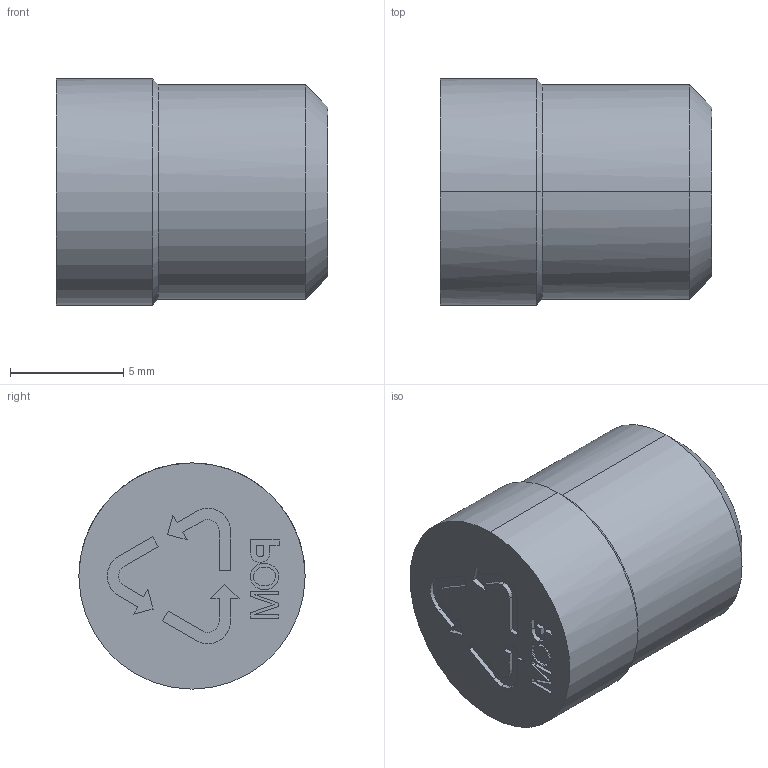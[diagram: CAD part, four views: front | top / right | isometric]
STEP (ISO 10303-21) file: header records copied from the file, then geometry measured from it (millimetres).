
FILE_DESCRIPTION(('CATIA V5 STEP Exchange'),'2;1');
FILE_NAME('C:\Users\Utente\Desktop\IO LAVORO\3D X SITO CF\X SITO\PLASTICA\CFMR\MPOM10.stp','2021-03-26T13:44:57+00:00',('none'),('none'),'CATIA Version 5 Release 20 GA (IN-10)','CATIA V5 STEP AP203','none');
FILE_SCHEMA(('CONFIG_CONTROL_DESIGN'));
Length unit declared in the file: millimetre
Products named in the file (1): MPOM10
Bounding box: 12 x 10 x 10 mm (x, y, z)
Volume: 811.3 mm3; surface area: 575.7 mm2
Topology: 1 solids, 1 shells, 140 faces, 396 edges, 265 vertices
Faces by surface type: plane 112, cylinder 20, cone 8
Entity records: 4546 total; most frequent: CARTESIAN_POINT 894, ORIENTED_EDGE 788, DIRECTION 662, EDGE_CURVE 394, VECTOR 334, LINE 334, VERTEX_POINT 265, AXIS2_PLACEMENT_3D 189
